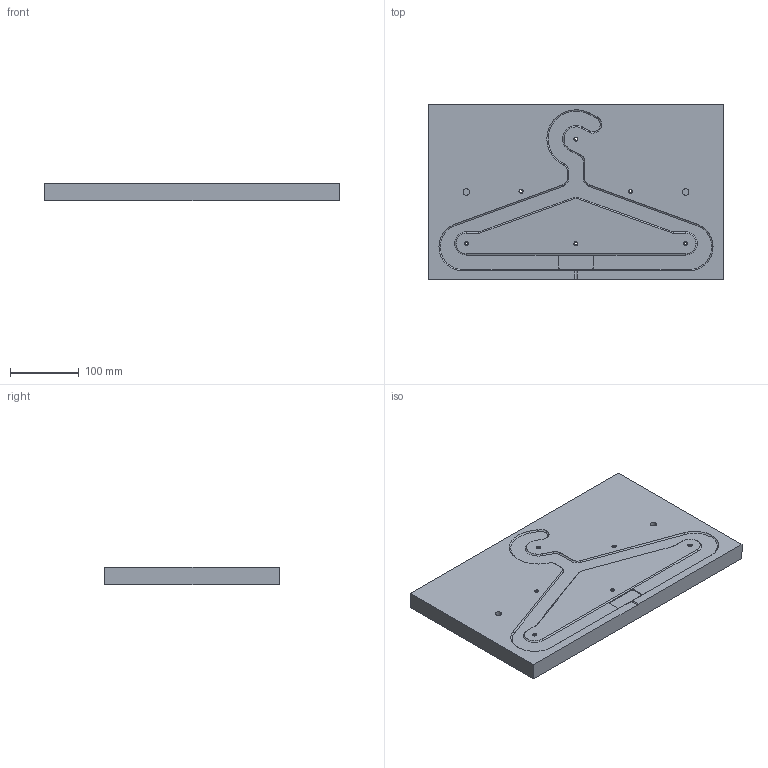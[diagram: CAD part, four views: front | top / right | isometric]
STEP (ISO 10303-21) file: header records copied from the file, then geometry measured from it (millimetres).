
FILE_DESCRIPTION (( 'STEP AP214' ), '1' );
FILE_NAME ('A with logo space.STEP', '2023-11-28T18:12:00', ( '' ), ( '' ), 'SwSTEP 2.0', 'SolidWorks 2018', '' );
FILE_SCHEMA (( 'AUTOMOTIVE_DESIGN' ));
Length unit declared in the file: millimetre
Products named in the file (1): A with logo space
Bounding box: 430 x 255 x 25.4 mm (x, y, z)
Volume: 2730663 mm3; surface area: 261616.2 mm2
Topology: 1 solids, 1 shells, 318 faces, 938 edges, 624 vertices
Faces by surface type: cylinder 268, bspline 18, torus 17, plane 15
Entity records: 32538 total; most frequent: CARTESIAN_POINT 25479, ORIENTED_EDGE 1876, DIRECTION 1092, EDGE_CURVE 938, VERTEX_POINT 624, AXIS2_PLACEMENT_3D 394, EDGE_LOOP 332, ADVANCED_FACE 318
